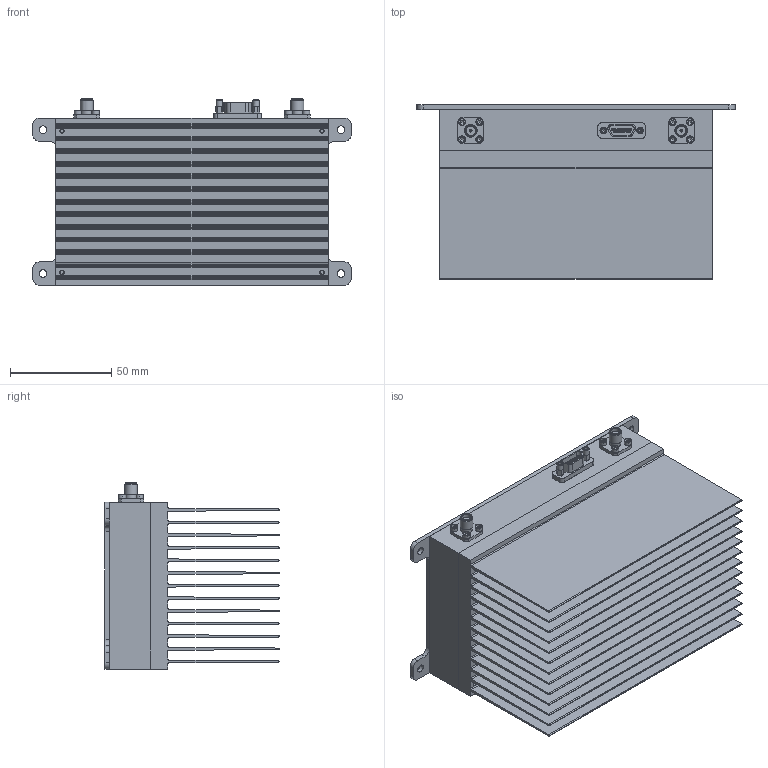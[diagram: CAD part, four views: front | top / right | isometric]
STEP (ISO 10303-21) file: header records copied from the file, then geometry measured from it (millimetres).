
FILE_DESCRIPTION((''),'2;1');
FILE_NAME('\\SERPENTOR\Engineering\ENG\Models\TTRMxxxx\TTRM1076\Inventor\140-HS.stp','2015-07-23T12:04:39',('dcampbell'),(''),'Autodesk Inventor 2013','Autodesk Inventor 2013','');
FILE_SCHEMA(('AUTOMOTIVE_DESIGN { 1 0 10303 214 1 1 1 1 }'));
Length unit declared in the file: inch
Products named in the file (10): OL_140; 410-002; 410-002_1; Hexagon Socket Head Cap Screw - Inch No. 2 - 56 UNC - 3/16; 400-072; 561-002; T50142062; T52147141; Cross Recessed Flat Countersunk Head Machine Screw - Type I - Inch 4-40 x 1 1/4
Assembly tree (20 placements, depth 2):
  OL_140
    OL_140
    410-002
    410-002_1
    Hexagon Socket Head Cap Screw - Inch No. 2 - 56 UNC - 3/16  x8
    400-072
    561-002  x2
    T50142062
    T52147141
    Cross Recessed Flat Countersunk Head Machine Screw - Type I - Inch 4-40 x 1 1/4  x4
Bounding box: 157.48 x 86.16 x 92.08 mm (x, y, z)
Volume: 454511.7 mm3; surface area: 278609.3 mm2
Topology: 20 solids, 20 shells, 630 faces, 1504 edges, 980 vertices
Faces by surface type: plane 330, cylinder 208, cone 60, torus 32
Full cylindrical faces by diameter (mm): 0.635 x15, 0.737 x2, 0.889 x15, 1.016 x4, 1.245 x2, 1.295 x2, 1.702 x2, 2.032 x2, 2.159 x6, 2.184 x8, 2.438 x2, 2.591 x8, 2.616 x2, 2.845 x4, 3.15 x2, 3.251 x4, 3.277 x4, 3.556 x8, 3.81 x4, 4.597 x2, 4.953 x4, 5.486 x4, 6.35 x2
Entity records: 12219 total; most frequent: CARTESIAN_POINT 2127, DIRECTION 2114, ORIENTED_EDGE 1758, EDGE_CURVE 879, AXIS2_PLACEMENT_3D 824, VERTEX_POINT 643, EDGE_LOOP 628, VECTOR 466
